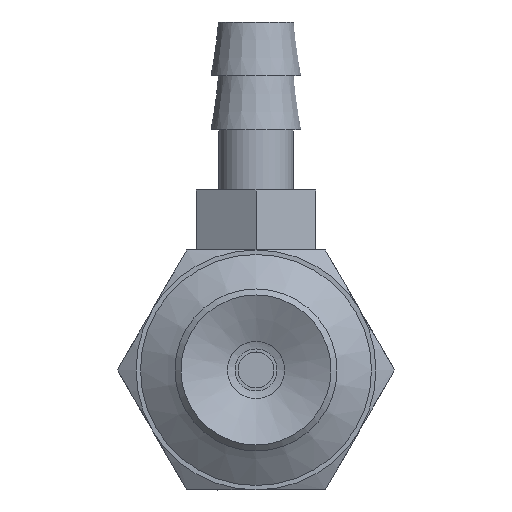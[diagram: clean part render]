
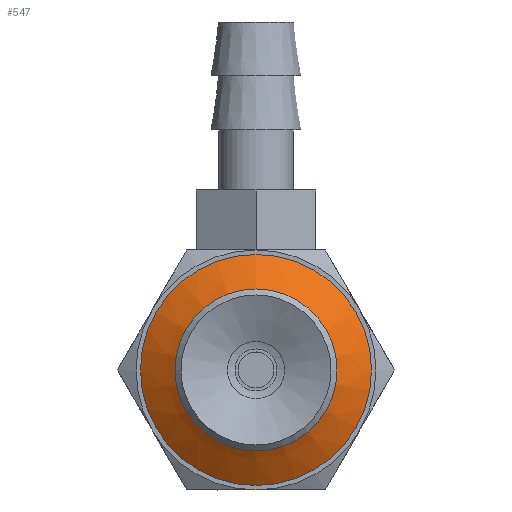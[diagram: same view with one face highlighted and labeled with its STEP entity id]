
A CAD part, front view. The second image highlights one B-rep face of the part: STEP entity #547.
In plain terms, the highlighted conical face has half-angle 55 degrees and reference radius 1.794 mm.
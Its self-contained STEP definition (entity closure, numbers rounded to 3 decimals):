
#547=ADVANCED_FACE('',(#801,#802),#803,.T.);
#801=FACE_BOUND('',#1116,.T.);
#802=FACE_OUTER_BOUND('',#1117,.T.);
#803=CONICAL_SURFACE('',#1118,1.794,0.96);
#1116=EDGE_LOOP('',(#1868));
#1117=EDGE_LOOP('',(#1869));
#1118=AXIS2_PLACEMENT_3D('',#1870,#1871,#1872);
#1868=ORIENTED_EDGE('',*,*,#2232,.T.);
#1869=ORIENTED_EDGE('',*,*,#2229,.T.);
#1870=CARTESIAN_POINT('',(0.0,7.118,0.));
#1871=DIRECTION('',(0.0,1.0,0.));
#1872=DIRECTION('',(0.0,0.,1.0));
#2229=EDGE_CURVE('',#2561,#2561,#2562,.T.);
#2232=EDGE_CURVE('',#2567,#2567,#2568,.T.);
#2561=VERTEX_POINT('',#3307);
#2562=CIRCLE('',#3308,3.85);
#2567=VERTEX_POINT('',#3313);
#2568=CIRCLE('',#3314,2.114);
#3307=CARTESIAN_POINT('',(0.0,8.558,-3.85));
#3308=AXIS2_PLACEMENT_3D('',#3653,#3654,#3655);
#3313=CARTESIAN_POINT('',(0.0,7.342,2.114));
#3314=AXIS2_PLACEMENT_3D('',#3662,#3663,#3664);
#3653=CARTESIAN_POINT('',(0.0,8.558,0.));
#3654=DIRECTION('',(0.0,-1.0,0.));
#3655=DIRECTION('',(0.0,0.,-1.0));
#3662=CARTESIAN_POINT('',(0.0,7.342,0.));
#3663=DIRECTION('',(0.0,1.0,0.));
#3664=DIRECTION('',(0.0,0.,1.0));
